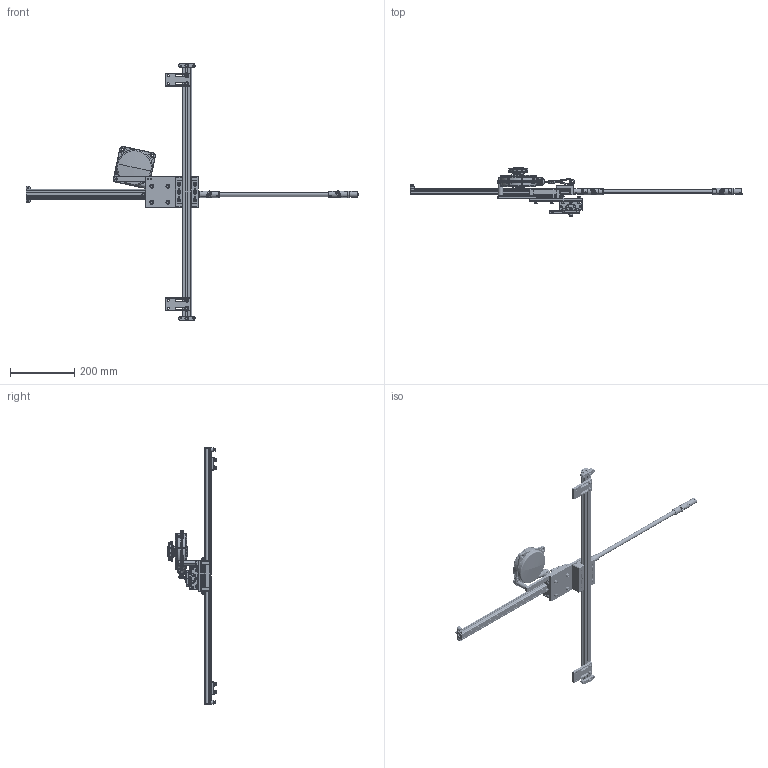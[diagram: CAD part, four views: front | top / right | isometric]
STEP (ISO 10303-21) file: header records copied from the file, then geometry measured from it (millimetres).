
FILE_DESCRIPTION (( 'STEP AP214' ), '1' );
FILE_NAME ('Braccio sospeso XZ 15Nm.STEP', '2015-06-29T15:15:04', ( '' ), ( '' ), 'SwSTEP 2.0', 'SolidWorks 2015', '' );
FILE_SCHEMA (( 'AUTOMOTIVE_DESIGN' ));
Length unit declared in the file: millimetre
Products named in the file (2): Braccio sospeso XZ 15Nm
Bounding box: 1032 x 149.48 x 798 mm (x, y, z)
Volume: 1205157.4 mm3; surface area: 562954.9 mm2
Topology: 101 solids, 101 shells, 5682 faces, 13796 edges, 8343 vertices
Faces by surface type: plane 2130, cylinder 1222, bspline 814, torus 664, cone 614, sphere 238
Entity records: 264967 total; most frequent: CARTESIAN_POINT 74084, ORIENTED_EDGE 27310, DIRECTION 25874, EDGE_CURVE 13655, AXIS2_PLACEMENT_3D 10097, VERTEX_POINT 8329, EDGE_LOOP 6078, UNCERTAINTY_MEASURE_WITH_UNIT 5785
